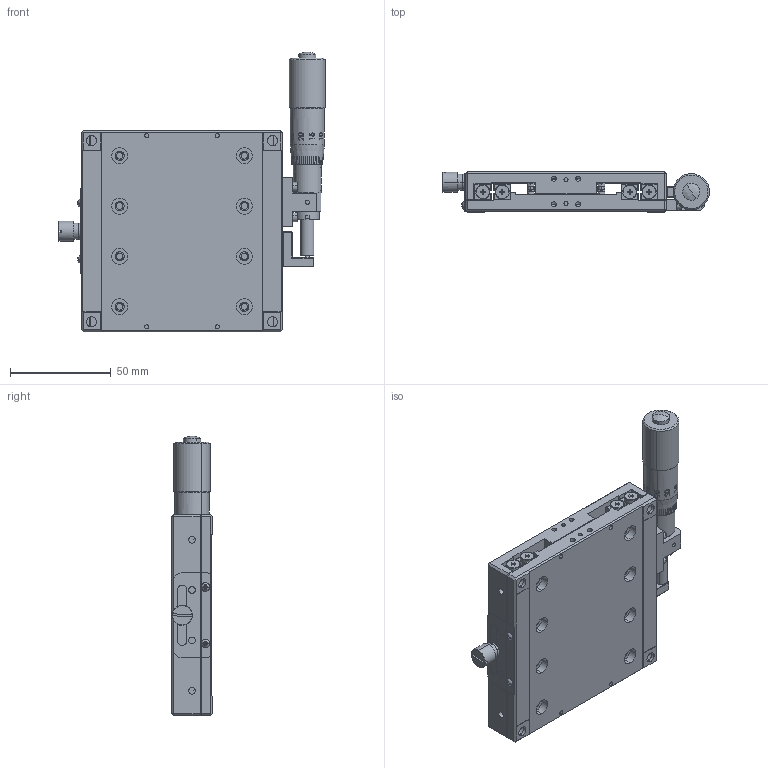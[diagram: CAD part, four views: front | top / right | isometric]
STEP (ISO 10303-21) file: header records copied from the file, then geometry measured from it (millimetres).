
FILE_DESCRIPTION (( 'STEP AP203' ), '1' );
FILE_NAME ('AX100-AR.STEP', '2017-07-24T05:37:24', ( '微软用户' ), ( '微软中国' ), 'SwSTEP 2.0', 'SolidWorks 2017', '' );
FILE_SCHEMA (( 'CONFIG_CONTROL_DESIGN' ));
Length unit declared in the file: millimetre
Products named in the file (22): BOLT; 100_VR3_23-1; SC04B008_SCM435(化鎳); GASKET_2; 100_VR3_23-2; SI2.5B004_SCM435(化鎳); AX80-A-06_蕼偞; 100_VR3_23-3; AX100-AR; MHGS-FN-25-_尺標12.5; 100_UP_63_SOLID_1; MH9.5_蕼偞; M2X1_5_2; AX40-A-05; M2X1_5_2-1; RB2_D(+00)G10; M4_1; 100_DOWN_58; SC2.5B010_SCM435(化鎳); KHL_882V306_2; 100_VR3_23; SC2.5B006_SCM435(化鎳)
Assembly tree (34 placements, depth 2):
  AX100-AR
    100_DOWN_58
    100_VR3_23
    100_VR3_23-1
    100_VR3_23-2
    100_VR3_23-3
    100_UP_63_SOLID_1
    M2X1_5_2
    M2X1_5_2-1
    M4_1
    KHL_882V306_2
    BOLT  x4
    GASKET_2
    AX80-A-06_蕼偞
    MHGS-FN-25-_尺標12.5
    MH9.5_蕼偞
    AX40-A-05
    RB2_D(+00)G10
    SC2.5B010_SCM435(化鎳)  x2
    SC2.5B006_SCM435(化鎳)  x2
    SC04B008_SCM435(化鎳)  x8
    SI2.5B004_SCM435(化鎳)  x2
Bounding box: 132.54 x 20 x 139 mm (x, y, z)
Volume: 187388.8 mm3; surface area: 82411.3 mm2
Topology: 34 solids, 36 shells, 2186 faces, 5546 edges, 3509 vertices
Faces by surface type: plane 1184, cylinder 605, bspline 193, cone 128, torus 68, sphere 8
Entity records: 83657 total; most frequent: CARTESIAN_POINT 37866, ORIENTED_EDGE 9232, DIRECTION 8432, EDGE_CURVE 4616, VERTEX_POINT 2974, AXIS2_PLACEMENT_3D 2936, LINE 2560, VECTOR 2560
